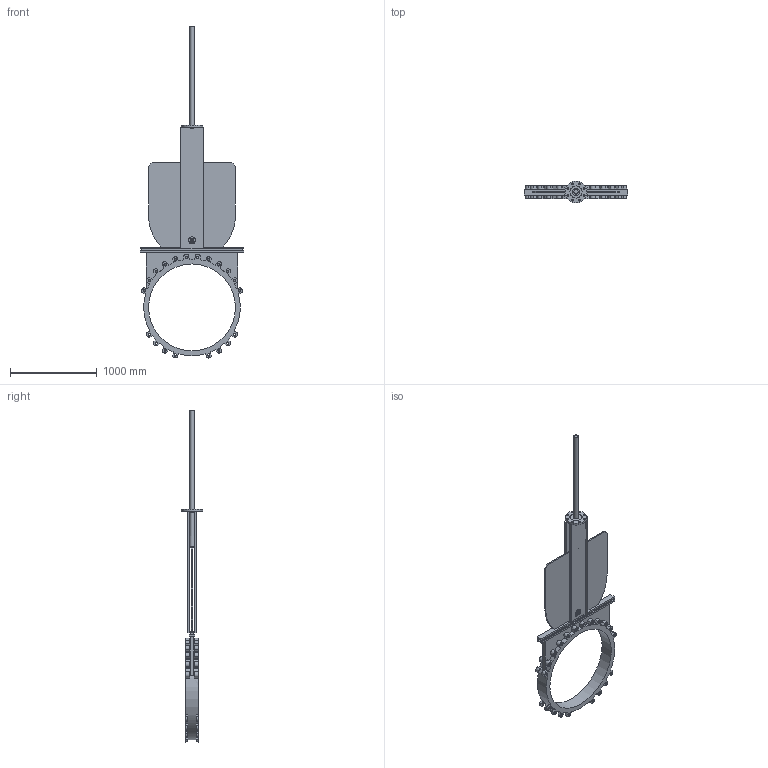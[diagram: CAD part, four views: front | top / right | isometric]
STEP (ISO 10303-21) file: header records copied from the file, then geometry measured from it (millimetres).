
FILE_DESCRIPTION(('STEP AP203'), '1');
FILE_NAME('K21GVA_DN1000', '', ('UNSPECIFIED'), ('UNSPECIFIED'), 'ASCON STEP Converter 1.6', 'ASCON Math Kernel', '');
FILE_SCHEMA(('CONFIG_CONTROL_DESIGN'));
Length unit declared in the file: millimetre
Bounding box: 1190 x 250 x 3822.23 mm (x, y, z)
Volume: 63616556.6 mm3; surface area: 6471343.2 mm2
Topology: 1 solids, 1 shells, 408 faces, 1165 edges, 767 vertices
Faces by surface type: plane 199, cylinder 184, cone 25
Full cylindrical faces by diameter (mm): 18 x8, 26.211 x16, 29.211 x24, 52 x2, 80 x1, 140 x1, 250 x1, 1000 x1, 1112 x1
Entity records: 16236 total; most frequent: DIRECTION 2342, CARTESIAN_POINT 2213, ORIENTED_EDGE 2122, EDGE_CURVE 1061, AXIS2_PLACEMENT_3D 872, VERTEX_POINT 743, LINE 598, VECTOR 598
